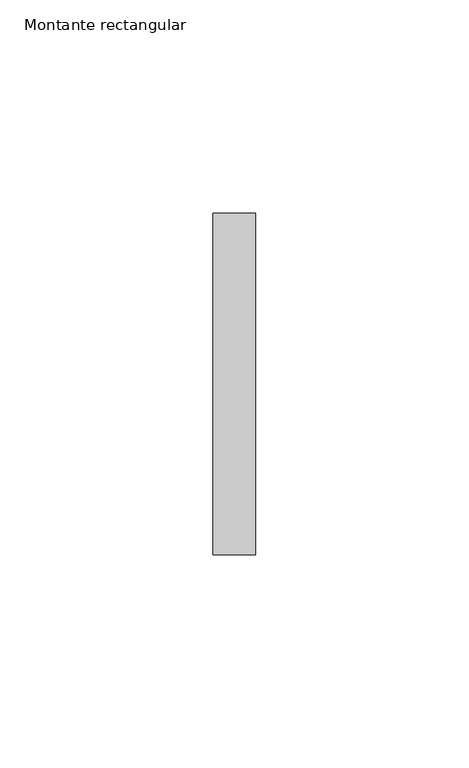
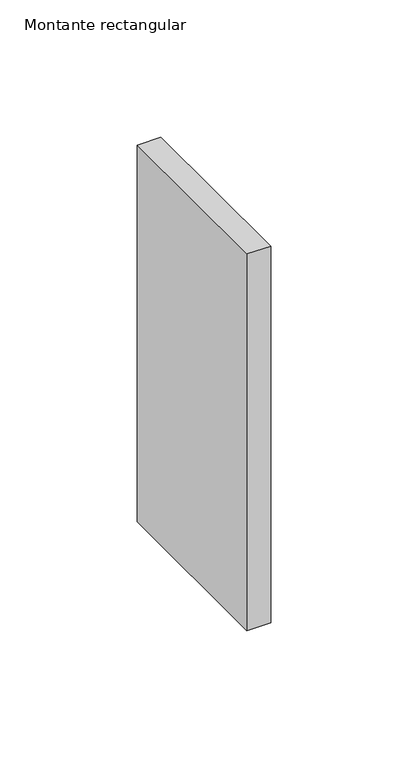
"""IFC4 building model written with IfcOpenShell, lengths in millimetres: member geometry, Montante rectangular : Junta de paves."""

import ifcopenshell
import ifcopenshell.guid

model = None  # the IFC model being written
_history = None  # IfcOwnerHistory: only IFC2X3 demands one
_inside = {}  # id of a spatial element -> (the spatial element, [elements in it])
_under = {}  # id of a project, library or spatial element -> (it, [spatial elements below it])
_declared = {}  # id of a project -> (the project, [libraries it declares])
_typed = {}  # id of a type object -> (the type object, [elements of that type])
_made_of = {}  # id of a material, layer set ... -> (it, [elements and type objects made of it])


def new_model(schema):
    """Start an empty IFC model of exactly this schema.

    Asked for "IFC4X3", IfcOpenShell would pick the latest addendum, in which some entities
    have other attributes; the version numbers below select the first issue.
    IFC2X3 requires an IfcOwnerHistory on every rooted entity: one is made here for all.
    """
    global model, _history
    if schema == "IFC4X3":
        model = ifcopenshell.file(schema_version=(4, 3, 0, 0))
    else:
        model = ifcopenshell.file(schema=schema)
    _inside.clear()
    _under.clear()
    _declared.clear()
    _typed.clear()
    _made_of.clear()
    _history = None
    if model.schema == "IFC2X3":
        org = make("IfcOrganization", Name="unknown")
        user = make(
            "IfcPersonAndOrganization",
            ThePerson=make("IfcPerson", FamilyName="unknown"),
            TheOrganization=org,
        )
        app = make(
            "IfcApplication",
            ApplicationDeveloper=org,
            Version="unknown",
            ApplicationFullName="unknown",
            ApplicationIdentifier="unknown",
        )
        _history = make(
            "IfcOwnerHistory",
            OwningUser=user,
            OwningApplication=app,
            ChangeAction="ADDED",
            CreationDate=0,
        )
    return model


def make(cls, **values):
    """One entity of the class cls with the attributes given. An attribute that is None is left unset."""
    return model.create_entity(
        cls, **{name: value for name, value in values.items() if value is not None}
    )


def rooted(cls, **values):
    """An entity with a GlobalId (a new one), such as an element, a storey or a relation."""
    return make(cls, GlobalId=ifcopenshell.guid.new(), OwnerHistory=_history, **values)


def si_unit(unit_type, name, prefix=None):
    """IfcSIUnit, for example si_unit("LENGTHUNIT", "METRE", prefix="MILLI")."""
    return make("IfcSIUnit", UnitType=unit_type, Prefix=prefix, Name=name)


def assignment(units):
    """IfcUnitAssignment: the units of a project."""
    return None if units is None else make("IfcUnitAssignment", Units=units)


def point(xyz):
    """IfcCartesianPoint."""
    return None if xyz is None else make("IfcCartesianPoint", Coordinates=xyz)


def direction(xyz):
    """IfcDirection."""
    return None if xyz is None else make("IfcDirection", DirectionRatios=xyz)


def frame(location, z_axis=None, x_axis=None):
    """IfcAxis2Placement3D, a coordinate frame: its origin and axes. An axis left out is left unset."""
    return make(
        "IfcAxis2Placement3D",
        Location=point(location),
        Axis=direction(z_axis),
        RefDirection=direction(x_axis),
    )


def origin():
    """The frame at (0, 0, 0) with its axes left unset."""
    return frame((0.0, 0.0, 0.0))


def place(relative_to, where):
    """IfcLocalPlacement: puts the frame where relative to a parent placement (None: the world)."""
    return make(
        "IfcLocalPlacement", PlacementRelTo=relative_to, RelativePlacement=where
    )


def context(
    kind, dimensions, precision=None, world=None, true_north=None, identifier=None
):
    """IfcGeometricRepresentationContext, for example the 3D "Model" context."""
    return make(
        "IfcGeometricRepresentationContext",
        ContextIdentifier=identifier,
        ContextType=kind,
        CoordinateSpaceDimension=dimensions,
        Precision=precision,
        WorldCoordinateSystem=world,
        TrueNorth=true_north,
    )


def project(units=None, contexts=None):
    """IfcProject with its units and contexts."""
    return rooted(
        "IfcProject",
        Name="project",
        RepresentationContexts=contexts,
        UnitsInContext=assignment(units),
    )


def spatial(cls, under=None, at=None, **own):
    """A site, building, storey or space (cls), placed at a placement, below another one or the project."""
    s = rooted(cls, ObjectPlacement=at, **own)
    if under is not None:
        _under.setdefault(under.id(), (under, []))[1].append(s)
    return s


def polyline(points):
    """IfcPolyline through the points."""
    return make("IfcPolyline", Points=[point(p) for p in points])


def outline(outer, holes=None, kind="AREA"):
    """IfcArbitraryClosedProfileDef: a profile drawn as a closed curve; with holes, ...WithVoids."""
    if holes is None:
        return make("IfcArbitraryClosedProfileDef", ProfileType=kind, OuterCurve=outer)
    return make(
        "IfcArbitraryProfileDefWithVoids",
        ProfileType=kind,
        OuterCurve=outer,
        InnerCurves=holes,
    )


def extrude(swept, where, along, depth):
    """IfcExtrudedAreaSolid: the profile swept, set in the frame where, extruded along a direction by depth."""
    return make(
        "IfcExtrudedAreaSolid",
        SweptArea=swept,
        Position=where,
        ExtrudedDirection=direction(along),
        Depth=depth,
    )


def shape(context_of_items, identifier, shape_type, items):
    """IfcShapeRepresentation: the items that make up one representation, for example the "Body"."""
    return make(
        "IfcShapeRepresentation",
        ContextOfItems=context_of_items,
        RepresentationIdentifier=identifier,
        RepresentationType=shape_type,
        Items=items,
    )


def source(mapping_origin, context_of_items, identifier, shape_type, items):
    """IfcRepresentationMap: a shape defined once, which mapped items show again and again."""
    return make(
        "IfcRepresentationMap",
        MappingOrigin=mapping_origin,
        MappedRepresentation=shape(context_of_items, identifier, shape_type, items),
    )


def transform(
    local_origin,
    x_axis=None,
    y_axis=None,
    z_axis=None,
    scale=None,
    scale2=None,
    scale3=None,
    uniform=True,
):
    """IfcCartesianTransformationOperator3D, or its non-uniform kind. x_axis, y_axis, z_axis: its Axis1, 2, 3."""
    if uniform:
        return make(
            "IfcCartesianTransformationOperator3D",
            Axis1=direction(x_axis),
            Axis2=direction(y_axis),
            LocalOrigin=point(local_origin),
            Scale=scale,
            Axis3=direction(z_axis),
        )
    return make(
        "IfcCartesianTransformationOperator3DnonUniform",
        Axis1=direction(x_axis),
        Axis2=direction(y_axis),
        LocalOrigin=point(local_origin),
        Scale=scale,
        Axis3=direction(z_axis),
        Scale2=scale2,
        Scale3=scale3,
    )


def mapped(mapping_source, mapping_target):
    """IfcMappedItem: shows the shape of a source again, moved by a transform."""
    return make(
        "IfcMappedItem", MappingSource=mapping_source, MappingTarget=mapping_target
    )


def made_of(thing, what):
    """Note that an element or type object is made of a material, layer set ...; save() writes the relation."""
    if what is not None:
        _made_of.setdefault(what.id(), (what, []))[1].append(thing)
    return thing


def element(
    cls,
    number,
    at=None,
    inside=None,
    cuts=None,
    type_object=None,
    material=None,
    context=None,
    identifier="Body",
    shape_type=None,
    held_by="IfcProductDefinitionShape",
    body=None,
    shapes=None,
    **own,
):
    """One element of the class cls, such as IfcWall. Its Tag is "e" and its number.

    at: its placement. inside: the storey or other place that contains it. cuts: it is an
    opening in that element (IfcRelVoidsElement). A single representation is given by context,
    identifier, shape_type and body (its items); several are given by shapes. held_by: the class
    of the entity that holds the representations. save() writes the other relations.
    """
    e = rooted(cls, Tag="e%d" % number, ObjectPlacement=at, **own)
    if body is not None:
        shapes = [shape(context, identifier, shape_type, body)]
    if shapes is not None:
        e.Representation = make(held_by, Representations=shapes)
    if inside is not None:
        _inside.setdefault(inside.id(), (inside, []))[1].append(e)
    if cuts is not None:
        rooted(
            "IfcRelVoidsElement", RelatingBuildingElement=cuts, RelatedOpeningElement=e
        )
    if type_object is not None:
        _typed.setdefault(type_object.id(), (type_object, []))[1].append(e)
    return made_of(e, material)


def aggregate(whole, parts):
    """IfcRelAggregates: a whole, such as a stair, and the parts it consists of."""
    return rooted("IfcRelAggregates", RelatingObject=whole, RelatedObjects=parts)


def save(model, path):
    """Write the relations noted so far, then the file.

    IfcRelAggregates (storeys below a building ...), IfcRelContainedInSpatialStructure (elements
    in a storey), IfcRelDefinesByType, IfcRelAssociatesMaterial and IfcRelDeclares: one each for
    every whole, place, type object, material and project.
    """
    for whole, parts in _under.values():
        aggregate(whole, parts)
    for where, things in _inside.values():
        rooted(
            "IfcRelContainedInSpatialStructure",
            RelatedElements=things,
            RelatingStructure=where,
        )
    for kind, things in _typed.values():
        rooted("IfcRelDefinesByType", RelatedObjects=things, RelatingType=kind)
    for what, things in _made_of.values():
        rooted("IfcRelAssociatesMaterial", RelatedObjects=things, RelatingMaterial=what)
    for by, libraries in _declared.values():
        rooted("IfcRelDeclares", RelatingContext=by, RelatedDefinitions=libraries)
    model.write(path)


def montante_rectangular_3d630c58(model_context):
    return source(origin(), model_context, "Body", "SweptSolid", [
        extrude(outline(polyline([(5.0, 40.0), (5.0, -40.0), (-5.0, -40.0), (-5.0, 40.0), (5.0, 40.0)])), frame((0.0, 0.0, -167.7385141), z_axis=(0.0, 0.0, 1.0), x_axis=(1.0, 0.0, 0.0)), (0.0, 0.0, 1.0), 167.7385141),
    ])


if __name__ == "__main__":
    model = new_model("IFC4")
    model_context = context("Model", 3, world=origin())
    ifc_project = project(units=[si_unit("LENGTHUNIT", "METRE", prefix="MILLI")], contexts=[model_context])
    site = spatial("IfcSite", under=ifc_project)
    building = spatial("IfcBuilding", under=site)
    placement = place(None, origin())
    montante_rectangular_shape = montante_rectangular_3d630c58(model_context)
    element("IfcMember", 1, ObjectType="Montante rectangular : Junta de paves", at=placement, inside=building, context=model_context, shape_type="MappedRepresentation", body=[
        mapped(montante_rectangular_shape, transform((0.0, 0.0, 0.0), x_axis=(1.0, 0.0, 0.0), y_axis=(0.0, 1.0, 0.0), z_axis=(0.0, 0.0, 1.0))),
    ])
    save(model, "model.ifc")
